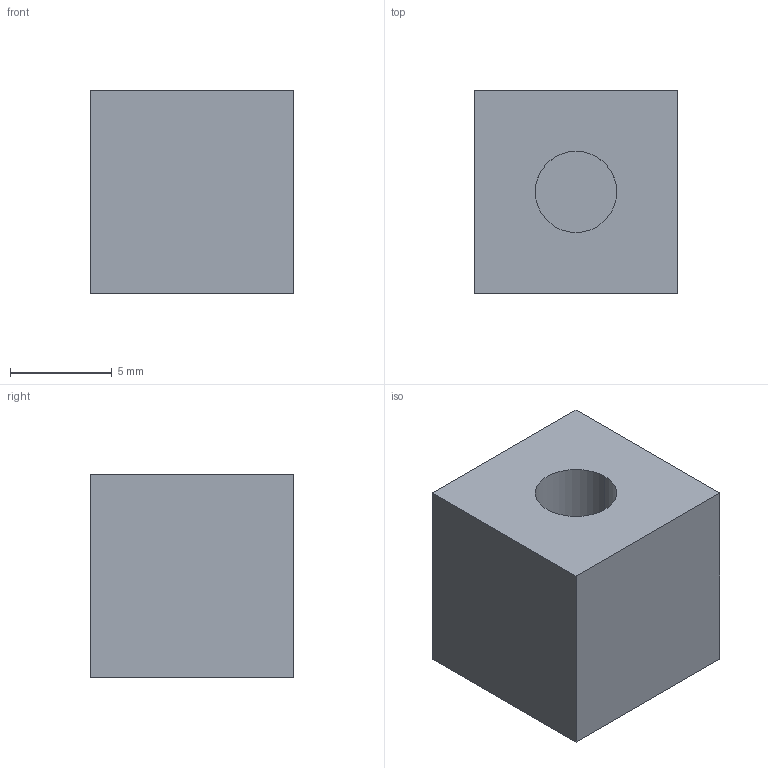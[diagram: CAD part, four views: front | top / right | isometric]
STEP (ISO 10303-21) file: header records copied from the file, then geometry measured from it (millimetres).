
FILE_DESCRIPTION (( 'STEP AP214' ), '1' );
FILE_NAME ('Block2.STEP', '2014-09-03T16:53:54', ( 'ebrady' ), ( '' ), 'SwSTEP 2.0', 'SolidWorks 2013', '' );
FILE_SCHEMA (( 'AUTOMOTIVE_DESIGN' ));
Length unit declared in the file: inch
Products named in the file (1): Block2
Bounding box: 10 x 10 x 10 mm (x, y, z)
Volume: 937.2 mm3; surface area: 662.8 mm2
Topology: 1 solids, 1 shells, 9 faces, 18 edges, 12 vertices
Faces by surface type: plane 7, cylinder 2
Entity records: 278 total; most frequent: DIRECTION 42, CARTESIAN_POINT 40, ORIENTED_EDGE 36, EDGE_CURVE 18, LINE 14, VECTOR 14, AXIS2_PLACEMENT_3D 14, VERTEX_POINT 12
